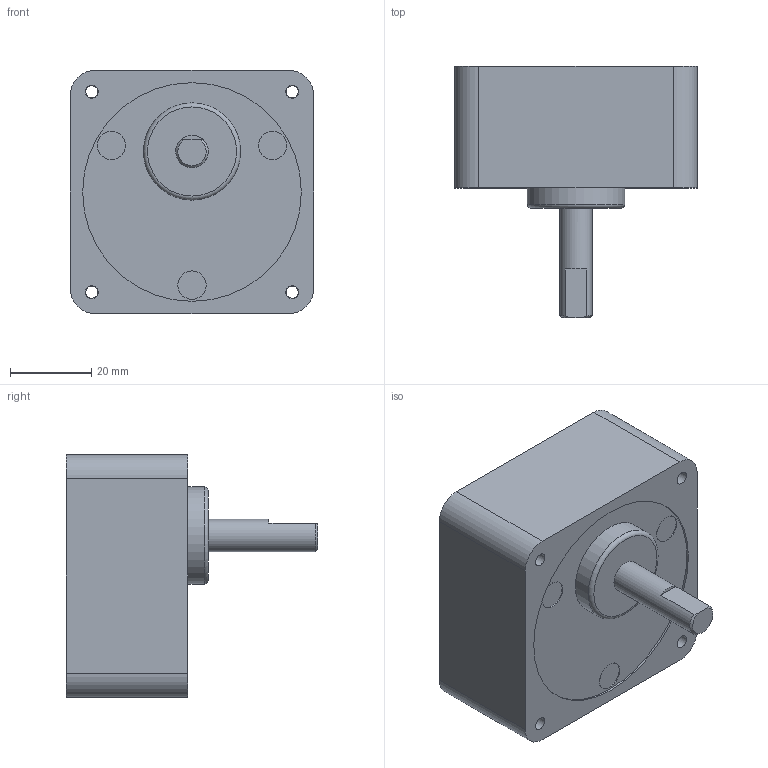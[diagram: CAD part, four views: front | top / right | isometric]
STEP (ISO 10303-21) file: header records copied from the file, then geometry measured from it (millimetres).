
FILE_DESCRIPTION((''),'2;1');
FILE_NAME('\\Servert1600\threepeace\2015homepage\STP\HP-Data_Gearhead_3D_STEP\CM-2.stp','2016-11-17T11:55:48',('Administrator'),(''),'Autodesk Inventor 2010','Autodesk Inventor 2010','');
FILE_SCHEMA(('AUTOMOTIVE_DESIGN { 1 0 10303 214 1 1 1 1 }'));
Length unit declared in the file: millimetre
Products named in the file (1): CM-2-ギアヘッド単品
Bounding box: 60 x 62 x 60 mm (x, y, z)
Volume: 101893.3 mm3; surface area: 16805.4 mm2
Topology: 1 solids, 1 shells, 40 faces, 92 edges, 61 vertices
Faces by surface type: plane 15, bspline 12, cylinder 11, cone 1, torus 1
Full cylindrical faces by diameter (mm): 7 x3, 8 x1, 24 x1, 54 x2
Entity records: 1164 total; most frequent: CARTESIAN_POINT 364, DIRECTION 160, ORIENTED_EDGE 126, EDGE_LOOP 75, AXIS2_PLACEMENT_3D 70, EDGE_CURVE 63, VERTEX_POINT 52, CIRCLE 41
